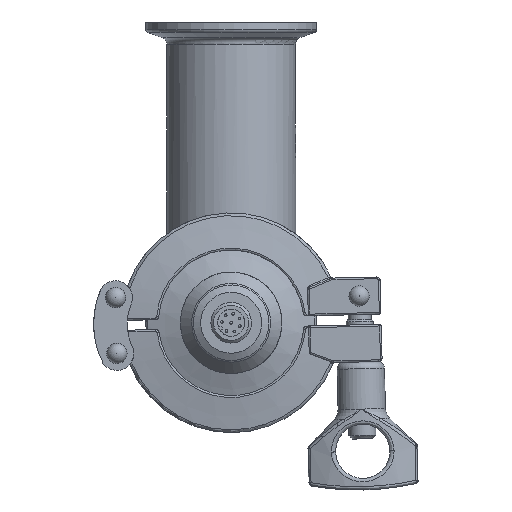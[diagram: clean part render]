
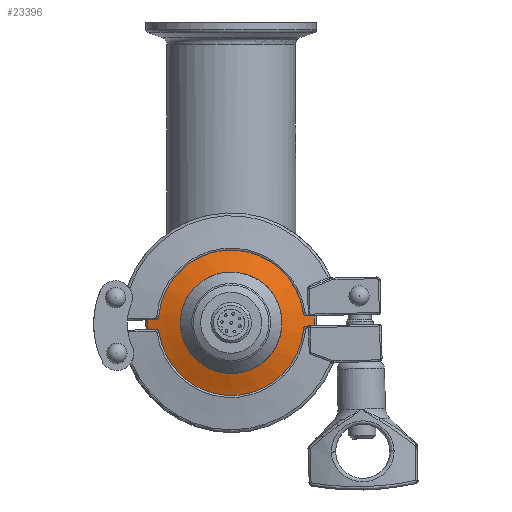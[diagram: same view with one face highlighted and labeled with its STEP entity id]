
A CAD part, front view. The second image highlights one B-rep face of the part: STEP entity #23396.
In plain terms, the highlighted conical face has half-angle 70 degrees and reference radius 24.724 mm.
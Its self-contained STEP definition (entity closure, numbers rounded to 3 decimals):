
#3533=CONICAL_SURFACE('',#24571,24.724,1.222);
#4207=ORIENTED_EDGE('',*,*,#9585,.T.);
#4208=ORIENTED_EDGE('',*,*,#9584,.F.);
#9584=EDGE_CURVE('',#12275,#12275,#14064,.T.);
#9585=EDGE_CURVE('',#12276,#12276,#14065,.T.);
#12275=VERTEX_POINT('',#30053);
#12276=VERTEX_POINT('',#30056);
#14064=CIRCLE('',#24570,24.724);
#14065=CIRCLE('',#24572,15.);
#14761=EDGE_LOOP('',(#4207));
#14762=EDGE_LOOP('',(#4208));
#16163=FACE_BOUND('',#14761,.T.);
#16164=FACE_BOUND('',#14762,.T.);
#23396=ADVANCED_FACE('',(#16163,#16164),#3533,.T.);
#24570=AXIS2_PLACEMENT_3D('',#30052,#26052,#26053);
#24571=AXIS2_PLACEMENT_3D('',#30054,#26054,#26055);
#24572=AXIS2_PLACEMENT_3D('',#30055,#26056,#26057);
#26052=DIRECTION('',(0.,1.,0.));
#26053=DIRECTION('',(-0.066,0.,0.998));
#26054=DIRECTION('',(0.,1.,0.));
#26055=DIRECTION('',(-0.066,0.,0.998));
#26056=DIRECTION('',(0.,1.,0.));
#26057=DIRECTION('',(-1.,0.,0.));
#30052=CARTESIAN_POINT('',(0.,3.815,0.));
#30053=CARTESIAN_POINT('',(-1.622,3.815,24.67));
#30054=CARTESIAN_POINT('',(0.,3.815,0.));
#30055=CARTESIAN_POINT('',(0.,0.275,0.));
#30056=CARTESIAN_POINT('',(-15.,0.275,0.));
